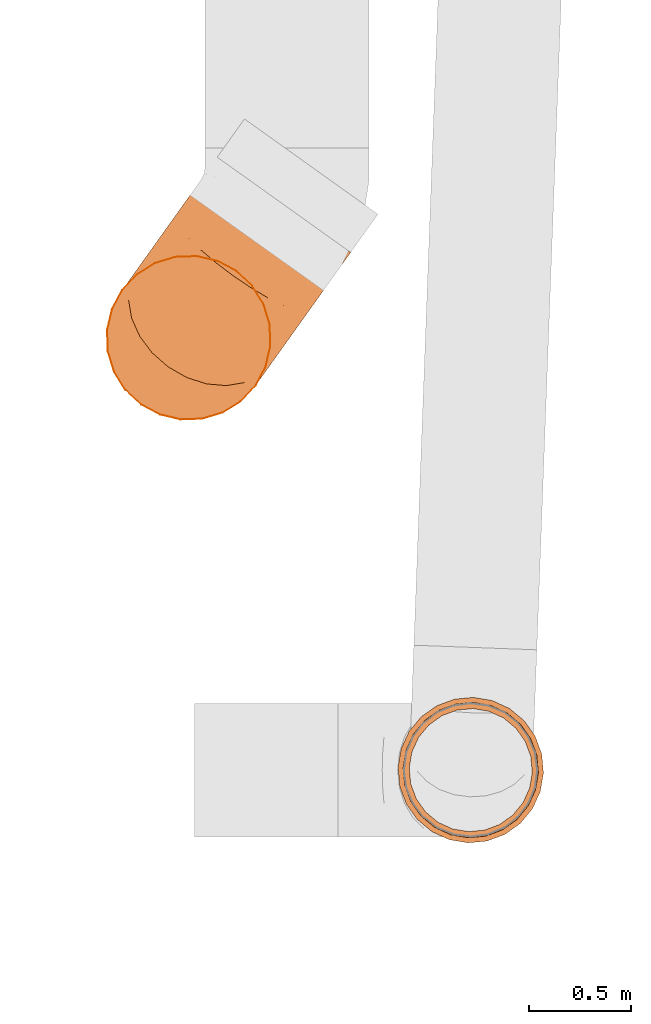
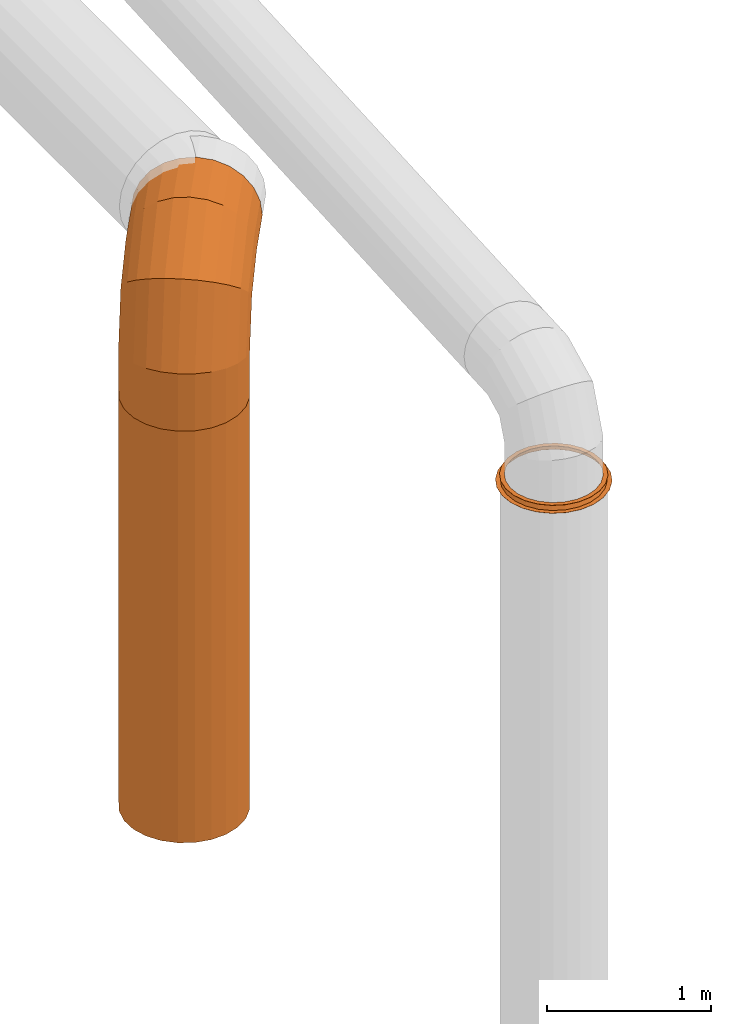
# One storey, part 290 of 301: 3 proxies.
"""IFC2X3 building model written with IfcOpenShell, lengths in millimetres."""

from ifc_helpers import new_model, entity, si_unit, converted_unit, derived_unit, money_unit, direction, frame, origin_with_axes, place, context, subcontext, project, spatial, open_shell, faceted_brep, surface_model, type_object, element, save


model = new_model("IFC2X3")

# Units and contexts
model_context = context("Model", 3, precision=0.01, world=origin_with_axes(), true_north=direction((0.0, 1.0)))
body_context = subcontext(model_context, "Body", "Model", "MODEL_VIEW")
ifc_project = project(units=[si_unit("LENGTHUNIT", "METRE", prefix="MILLI"), si_unit("AREAUNIT", "SQUARE_METRE"), si_unit("VOLUMEUNIT", "CUBIC_METRE"), converted_unit("PLANEANGLEUNIT", "DEGREE", entity("IfcPlaneAngleMeasure", 0.0174532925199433), si_unit("PLANEANGLEUNIT", "RADIAN"), dimensions=[0, 0, 0, 0, 0, 0, 0]), money_unit("EUR"), converted_unit("TIMEUNIT", "Year", entity("IfcTimeMeasure", 31557600.0), si_unit("TIMEUNIT", "SECOND"), dimensions=[0, 0, 1, 0, 0, 0, 0]), si_unit("MASSUNIT", "GRAM", prefix="KILO"), si_unit("THERMODYNAMICTEMPERATUREUNIT", "DEGREE_CELSIUS"), si_unit("LUMINOUSINTENSITYUNIT", "LUMEN"), si_unit("ENERGYUNIT", "JOULE", prefix="MEGA"), derived_unit("THERMALCONDUCTANCEUNIT", [(si_unit("POWERUNIT", "WATT"), 1), (si_unit("LENGTHUNIT", "METRE"), -1), (si_unit("THERMODYNAMICTEMPERATUREUNIT", "KELVIN"), -1)]), derived_unit("SPECIFICHEATCAPACITYUNIT", [(si_unit("ENERGYUNIT", "JOULE"), 1), (si_unit("MASSUNIT", "GRAM", prefix="KILO"), -1), (si_unit("THERMODYNAMICTEMPERATUREUNIT", "KELVIN"), -1)]), derived_unit("MASSDENSITYUNIT", [(si_unit("MASSUNIT", "GRAM", prefix="KILO"), 1), (si_unit("VOLUMEUNIT", "CUBIC_METRE"), -1)])], contexts=[model_context])

# Site, building, storey
site_placement = place(None, frame((0.0, 0.0, 8650.0), z_axis=(0.0, 0.0, 1.0), x_axis=(1.0, 0.0, 0.0)))
site = spatial("IfcSite", under=ifc_project, at=site_placement, Name="43301:001:0844", CompositionType="ELEMENT")
building_placement = place(site_placement, origin_with_axes())
building = spatial("IfcBuilding", under=site, at=building_placement, Name="Kuressaare Ametikooli tuulikute mehaanikute õppekorpus", CompositionType="ELEMENT")
storey_placement = place(building_placement, origin_with_axes())
storey = spatial("IfcBuildingStorey", under=building, at=storey_placement, Name="1.korrus", CompositionType="ELEMENT", Elevation=0.0)

# Proxies
building_element_proxy_type = type_object("IfcBuildingElementProxyType", Name="IfcBuildingElementProxy", PredefinedType="NOTDEFINED")
proxy_1_placement = place(storey_placement, frame((70327.74631989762, 43183.46311643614, 2617.919783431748), z_axis=(1.0, 0.0, 0.0), x_axis=(0.0, 1.0, 0.0)))
element("IfcBuildingElementProxy", 1, at=proxy_1_placement, inside=storey, type_object=building_element_proxy_type, context=body_context, shape_type="SurfaceModel", body=[
    surface_model("IfcShellBasedSurfaceModel", [(326.3291391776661, 0.0, 233.0456884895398), (375.5264059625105, 0.0, 140.6446530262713), (375.5264059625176, 3061.106005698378, 140.6446530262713), (326.3291391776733, 3061.106005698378, 233.0456884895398), (399.1321687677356, 0.0, 38.65891688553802), (399.1321687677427, 3061.106005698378, 38.65891688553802), (254.8930808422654, 0.0, 309.5650454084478), (254.8930808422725, 3061.106005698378, 309.5650454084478), (395.5377338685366, 0.0, -65.96136055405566), (395.5377338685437, 3061.106005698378, -65.96136055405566), (166.0864802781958, 0.0, 364.9880560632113), (166.0864802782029, 3061.106005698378, 364.9880560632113), (364.9880560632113, 0.0, -166.0864802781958), (364.9880560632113, 3061.106005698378, -166.0864802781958), (65.96136055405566, 0.0, 395.5377338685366), (65.96136055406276, 3061.106005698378, 395.5377338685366), (309.5650454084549, 0.0, -254.8930808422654), (309.565045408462, 3061.106005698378, -254.8930808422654), (-38.65891688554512, 0.0, 399.1321687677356), (-38.65891688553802, 3061.106005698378, 399.1321687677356), (233.0456884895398, 0.0, -326.329139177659), (233.0456884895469, 3061.106005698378, -326.329139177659), (-140.6446530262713, 0.0, 375.5264059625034), (-140.6446530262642, 3061.106005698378, 375.5264059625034), (140.6446530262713, 0.0, -375.5264059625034), (140.6446530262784, 3061.106005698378, -375.5264059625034), (-233.0456884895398, 0.0, 326.329139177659), (-233.0456884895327, 3061.106005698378, 326.329139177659), (38.65891688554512, 0.0, -399.1321687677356), (38.65891688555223, 3061.106005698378, -399.1321687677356), (-309.5650454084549, 0.0, 254.8930808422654), (-309.5650454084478, 3061.106005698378, 254.8930808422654), (-65.96136055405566, 0.0, -395.5377338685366), (-65.96136055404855, 3061.106005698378, -395.5377338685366), (-364.9880560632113, 0.0, 166.0864802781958), (-364.9880560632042, 3061.106005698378, 166.0864802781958), (-166.0864802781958, 0.0, -364.9880560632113), (-166.0864802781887, 3061.106005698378, -364.9880560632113), (-395.5377338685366, 0.0, 65.96136055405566), (-395.5377338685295, 3061.106005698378, 65.96136055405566), (-254.8930808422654, 0.0, -309.5650454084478), (-254.8930808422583, 3061.106005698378, -309.5650454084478), (-399.1321687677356, 0.0, -38.65891688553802), (-399.1321687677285, 3061.106005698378, -38.65891688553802), (-326.3291391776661, 0.0, -233.0456884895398), (-326.329139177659, 3061.106005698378, -233.0456884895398), (-375.5264059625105, 0.0, -140.6446530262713), (-375.5264059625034, 3061.106005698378, -140.6446530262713)], [open_shell([[[0, 1, 2, 3]], [[1, 4, 5, 2]], [[6, 0, 3, 7]], [[4, 8, 9, 5]], [[10, 6, 7, 11]], [[8, 12, 13, 9]], [[14, 10, 11, 15]], [[12, 16, 17, 13]], [[18, 14, 15, 19]], [[16, 20, 21, 17]], [[22, 18, 19, 23]], [[20, 24, 25, 21]], [[26, 22, 23, 27]], [[24, 28, 29, 25]], [[30, 26, 27, 31]], [[28, 32, 33, 29]], [[34, 30, 31, 35]], [[32, 36, 37, 33]], [[38, 34, 35, 39]], [[36, 40, 41, 37]], [[42, 38, 39, 43]], [[40, 44, 45, 41]], [[46, 42, 43, 47]], [[44, 46, 47, 45]]])]),
])
proxy_2_placement = place(storey_placement, frame((70327.74631989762, 43183.46311643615, 5679.025789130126), z_axis=(1.0, 0.0, 0.0), x_axis=(0.0, 1.0, 0.0)))
element("IfcBuildingElementProxy", 2, at=proxy_2_placement, inside=storey, type_object=building_element_proxy_type, context=body_context, shape_type="SurfaceModel", body=[
    surface_model("IfcShellBasedSurfaceModel", [(326.3291391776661, 0.0, 233.0456884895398), (375.5264059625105, 0.0, 140.6446530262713), (375.5264059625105, 269.7904303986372, 140.6446530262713), (326.3291391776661, 267.0725428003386, 233.0456884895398), (399.1321687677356, 0.0, 38.65891688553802), (399.1321687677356, 277.7588736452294, 38.65891688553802), (409.5807026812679, 370.8171190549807, 164.9642925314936), (357.7744572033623, 360.3593424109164, 255.5021439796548), (254.8930808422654, 0.0, 309.565045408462), (254.8930808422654, 269.7904303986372, 309.565045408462), (395.5377338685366, 0.0, -65.96136055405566), (395.5377338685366, 290.4348363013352, -65.96136055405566), (440.8356039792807, 401.4777687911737, 68.44113552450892), (491.7950476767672, 412.663743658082, 223.6770960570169), (433.6901704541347, 398.9999999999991, 309.7168233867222), (288.9473775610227, 370.8171190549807, 333.8846849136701), (166.0864802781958, 0.0, 364.9880560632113), (166.0864802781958, 277.7588736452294, 364.9880560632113), (364.9880560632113, 0.0, -166.0864802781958), (364.9880560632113, 306.9544724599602, -166.0864802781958), (449.409191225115, 450.2518190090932, -27.4894334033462), (541.5166028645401, 452.7238130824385, 140.3417716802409), (711.3473641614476, 412.663743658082, 380.4688581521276), (651.0307016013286, 398.9999999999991, 464.9290543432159), (371.161722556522, 412.6637436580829, 392.5974884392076), (207.7899154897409, 401.4777687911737, 394.770274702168), (65.96136055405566, 0.0, 395.5377338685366), (65.96136055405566, 290.434836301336, 395.5377338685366), (309.5650454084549, 0.0, -254.8930808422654), (309.5650454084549, 326.1919962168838, -254.8930808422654), (434.7171886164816, 513.8153987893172, -116.2899045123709), (579.4663942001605, 516.4501807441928, 65.39001489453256), (767.5535458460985, 452.7238130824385, 301.7644847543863), (590.7140390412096, 412.663743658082, 549.3892505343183), (308.4709143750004, 452.7238130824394, 466.6709108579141), (119.832817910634, 450.251819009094, 434.0096610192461), (-38.65891688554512, 0.0, 399.1321687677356), (-38.65891688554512, 306.9544724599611, 399.1321687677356), (233.0456884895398, 0.0, -326.329139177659), (233.0456884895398, 346.8364021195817, -326.329139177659), (397.7608318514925, 587.8367552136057, -191.9086724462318), (603.0582061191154, 599.4999999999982, 3.929664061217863), (815.8188882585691, 516.4501807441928, 234.1795071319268), (534.5078573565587, 452.7238130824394, 628.0936239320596), (249.8900208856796, 516.4501807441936, 526.8891093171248), (31.07021566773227, 513.8153987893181, 448.9287445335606), (-140.6446530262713, 0.0, 375.5264059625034), (-140.6446530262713, 326.1919962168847, 375.5264059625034), (140.6446530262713, 0.0, -375.5264059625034), (140.6446530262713, 367.4808080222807, -375.5264059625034), (341.0586355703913, 667.2714551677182, -249.1924431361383), (610.6842956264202, 696.2135629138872, -39.85085947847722), (852.8541880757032, 599.4999999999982, 182.3197298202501), (486.2425149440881, 516.4501807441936, 695.6786015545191), (199.411233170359, 599.4999999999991, 569.1483131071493), (-52.44886658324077, 587.8367552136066, 438.5108143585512), (-233.0456884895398, 0.0, 326.329139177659), (-233.0456884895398, 346.8364021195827, 326.329139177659), (38.65891688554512, 0.0, -399.1321687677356), (38.65891688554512, 386.7183317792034, -399.1321687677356), (268.4747607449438, 746.7061551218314, -284.2374222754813), (601.8249573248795, 799.9999999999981, -62.96798539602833), (876.1355508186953, 696.2135629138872, 149.7193109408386), (449.2072151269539, 599.4999999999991, 747.5383788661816), (160.4745971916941, 696.2135629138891, 590.5686273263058), (-125.0327414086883, 667.2714551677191, 403.465835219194), (-309.5650454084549, 0.0, 254.8930808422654), (-309.5650454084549, 367.4808080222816, 254.8930808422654), (-65.96136055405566, 0.0, -395.5377338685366), (-65.96136055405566, 403.2379679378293, -395.5377338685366), (184.9556784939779, 820.7275115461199, -294.6553524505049), (577.0839404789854, 903.7864370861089, -63.84631976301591), (884.0763900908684, 799.9999999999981, 138.5999151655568), (425.925852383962, 696.2135629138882, 780.1387977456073), (135.7335803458, 799.999999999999, 589.690292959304), (-181.7349376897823, 746.7061551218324, 346.1820645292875), (-364.9880560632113, 0.0, 166.0864802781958), (-364.9880560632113, 386.7183317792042, 166.0864802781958), (-166.0864802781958, 0.0, -364.9880560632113), (-166.0864802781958, 415.913930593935, -364.9880560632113), (96.19307625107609, 884.291091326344, -279.7362689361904), (538.1473045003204, 1000.499999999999, -42.42600554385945), (876.1355508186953, 903.7864370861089, 149.7193109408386), (417.9850131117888, 799.999999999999, 791.2581935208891), (126.8742420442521, 903.7864370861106, 566.5731670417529), (-218.6912944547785, 820.7275115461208, 270.5632965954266), (-395.5377338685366, 0.0, 65.96136055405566), (-395.5377338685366, 403.2379679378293, 65.96136055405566), (-254.8930808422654, 0.0, -309.5650454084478), (-254.8930808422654, 423.8823738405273, -309.5650454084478), (8.235978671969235, 933.0651415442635, -240.4968826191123), (487.6685167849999, 1083.549819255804, -0.1668017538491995), (852.8541880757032, 1000.499999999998, 182.3197298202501), (425.925852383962, 903.7864370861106, 780.1387977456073), (134.500331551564, 1000.5, 522.792643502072), (-233.3832970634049, 884.2910913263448, 181.7628254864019), (-399.1321687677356, 0.0, -38.65891688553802), (-399.1321687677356, 415.9139305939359, -38.65891688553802), (-326.3291391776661, 0.0, -233.0456884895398), (-326.3291391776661, 426.6002614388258, -233.0456884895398), (-72.92148339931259, 963.7257912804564, -179.6112928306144), (429.0876232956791, 1147.276186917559, 60.05139670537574), (815.8188882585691, 1083.549819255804, 234.1795071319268), (449.2072151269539, 1000.5, 747.5383788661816), (158.0921434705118, 1083.549819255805, 461.3322926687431), (-224.8097098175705, 933.0651415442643, 85.83225655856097), (-375.5264059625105, 0.0, -140.6446530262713), (-375.5264059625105, 423.8823738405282, -140.6446530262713), (-141.7485630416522, 974.1835679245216, -101.2287518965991), (366.3968151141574, 1187.336256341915, 134.1248191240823), (767.5535458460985, 1147.276186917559, 301.7644847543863), (486.2425149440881, 1083.549819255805, 695.6786015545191), (196.0419348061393, 1147.276186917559, 386.3805358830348), (-193.5548085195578, 963.7257912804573, -10.6909004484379), (303.8683672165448, 1200.999999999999, 217.0054841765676), (711.3473641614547, 1187.336256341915, 380.4688581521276), (534.5078573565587, 1147.276186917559, 628.0936239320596), (245.7634899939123, 1187.336256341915, 303.0452115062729), (651.0307016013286, 1200.999999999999, 464.9290543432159), (590.7140390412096, 1187.336256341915, 549.3892505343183)], [open_shell([[[0, 1, 2, 3]], [[1, 4, 5, 2]], [[3, 2, 6, 7]], [[8, 0, 3, 9]], [[4, 10, 11, 5]], [[2, 5, 12, 6]], [[7, 6, 13, 14]], [[9, 3, 7, 15]], [[16, 8, 9, 17]], [[10, 18, 19, 11]], [[5, 11, 20, 12]], [[6, 12, 21, 13]], [[14, 13, 22, 23]], [[15, 7, 14, 24]], [[17, 9, 15, 25]], [[26, 16, 17, 27]], [[18, 28, 29, 19]], [[11, 19, 30, 20]], [[12, 20, 31, 21]], [[13, 21, 32, 22]], [[24, 14, 23, 33]], [[25, 15, 24, 34]], [[27, 17, 25, 35]], [[36, 26, 27, 37]], [[28, 38, 39, 29]], [[19, 29, 40, 30]], [[20, 30, 41, 31]], [[21, 31, 42, 32]], [[34, 24, 33, 43]], [[35, 25, 34, 44]], [[37, 27, 35, 45]], [[46, 36, 37, 47]], [[38, 48, 49, 39]], [[29, 39, 50, 40]], [[30, 40, 51, 41]], [[31, 41, 52, 42]], [[44, 34, 43, 53]], [[45, 35, 44, 54]], [[47, 37, 45, 55]], [[56, 46, 47, 57]], [[48, 58, 59, 49]], [[39, 49, 60, 50]], [[40, 50, 61, 51]], [[41, 51, 62, 52]], [[54, 44, 53, 63]], [[55, 45, 54, 64]], [[57, 47, 55, 65]], [[66, 56, 57, 67]], [[58, 68, 69, 59]], [[49, 59, 70, 60]], [[50, 60, 71, 61]], [[51, 61, 72, 62]], [[64, 54, 63, 73]], [[65, 55, 64, 74]], [[67, 57, 65, 75]], [[76, 66, 67, 77]], [[68, 78, 79, 69]], [[59, 69, 80, 70]], [[60, 70, 81, 71]], [[61, 71, 82, 72]], [[74, 64, 73, 83]], [[75, 65, 74, 84]], [[77, 67, 75, 85]], [[86, 76, 77, 87]], [[78, 88, 89, 79]], [[69, 79, 90, 80]], [[70, 80, 91, 81]], [[71, 81, 92, 82]], [[84, 74, 83, 93]], [[85, 75, 84, 94]], [[87, 77, 85, 95]], [[96, 86, 87, 97]], [[88, 98, 99, 89]], [[79, 89, 100, 90]], [[80, 90, 101, 91]], [[81, 91, 102, 92]], [[94, 84, 93, 103]], [[95, 85, 94, 104]], [[97, 87, 95, 105]], [[106, 96, 97, 107]], [[98, 106, 107, 99]], [[89, 99, 108, 100]], [[90, 100, 109, 101]], [[91, 101, 110, 102]], [[104, 94, 103, 111]], [[105, 95, 104, 112]], [[107, 97, 105, 113]], [[99, 107, 113, 108]], [[100, 108, 114, 109]], [[101, 109, 115, 110]], [[112, 104, 111, 116]], [[113, 105, 112, 117]], [[108, 113, 117, 114]], [[109, 114, 118, 115]], [[117, 112, 116, 119]], [[114, 117, 119, 118]]])]),
])
proxy_3_placement = place(storey_placement, frame((71706.47101226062, 41069.55269963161, 5835.724518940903), z_axis=(1.0, 0.0, 0.0), x_axis=(0.0, 1.0, 0.0)))
element("IfcBuildingElementProxy", 3, at=proxy_3_placement, inside=storey, type_object=building_element_proxy_type, context=body_context, shape_type="SurfaceModel", body=[
    surface_model("IfcShellBasedSurfaceModel", [(-12.20557928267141, 1.000000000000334, 325.7714288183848), (72.52616587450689, 1.000000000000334, 317.8300729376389), (66.96434333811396, 42.30127018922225, 293.4566010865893), (-11.26956860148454, 42.30127018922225, 300.7889572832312), (152.3153726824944, 1.000000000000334, 288.2291228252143), (140.6347459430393, 42.30127018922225, 266.1256624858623), (-96.10553438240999, 1.000000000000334, 311.5120001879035), (-88.73547806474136, 42.30127018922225, 287.6230431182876), (221.7245385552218, 1.000000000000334, 238.9858343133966), (204.721123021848, 42.30127018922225, 220.6586997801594), (-173.4560561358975, 1.000000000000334, 276.0235435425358), (-160.154211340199, 42.30127018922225, 254.8560938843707), (276.0235435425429, 1.000000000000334, 173.4560561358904), (254.8560938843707, 42.30127018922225, 160.154211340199), (-238.9858343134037, 1.000000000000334, 221.7245385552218), (-220.6586997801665, 42.30127018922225, 204.7211230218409), (311.5120001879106, 1.000000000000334, 96.10553438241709), (287.6230431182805, 42.30127018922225, 88.73547806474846), (-288.2291228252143, 1.000000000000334, 152.3153726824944), (-266.1256624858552, 42.30127018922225, 140.6347459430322), (325.7714288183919, 1.000000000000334, 12.20557928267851), (300.7889572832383, 42.30127018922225, 11.26956860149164), (-317.8300729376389, 1.000000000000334, 72.52616587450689), (-293.4566010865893, 42.30127018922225, 66.96434333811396), (317.8300729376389, 1.000000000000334, -72.52616587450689), (293.4566010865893, 42.30127018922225, -66.96434333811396), (-325.7714288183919, 1.000000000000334, -12.20557928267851), (-300.7889572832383, 42.30127018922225, -11.26956860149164), (288.2291228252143, 1.000000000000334, -152.3153726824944), (266.1256624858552, 42.30127018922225, -140.6347459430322), (-311.5120001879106, 1.000000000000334, -96.10553438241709), (-287.6230431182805, 42.30127018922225, -88.73547806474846), (238.9858343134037, 1.000000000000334, -221.7245385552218), (220.6586997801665, 42.30127018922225, -204.7211230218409), (-276.0235435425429, 1.000000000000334, -173.4560561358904), (-254.8560938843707, 42.30127018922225, -160.154211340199), (173.4560561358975, 1.000000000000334, -276.0235435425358), (160.154211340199, 42.30127018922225, -254.8560938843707), (-221.7245385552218, 1.000000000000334, -238.9858343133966), (-204.721123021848, 42.30127018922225, -220.6586997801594), (96.10553438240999, 1.000000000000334, -311.5120001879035), (88.73547806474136, 42.30127018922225, -287.6230431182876), (-152.3153726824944, 1.000000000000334, -288.2291228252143), (-140.6347459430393, 42.30127018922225, -266.1256624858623), (12.20557928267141, 1.000000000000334, -325.7714288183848), (11.26956860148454, 42.30127018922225, -300.7889572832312), (-72.52616587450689, 1.000000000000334, -317.8300729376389), (-66.96434333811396, 42.30127018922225, -293.4566010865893)], [open_shell([[[0, 1, 2, 3]], [[1, 4, 5, 2]], [[6, 0, 3, 7]], [[4, 8, 9, 5]], [[10, 6, 7, 11]], [[8, 12, 13, 9]], [[14, 10, 11, 15]], [[12, 16, 17, 13]], [[18, 14, 15, 19]], [[16, 20, 21, 17]], [[22, 18, 19, 23]], [[20, 24, 25, 21]], [[26, 22, 23, 27]], [[24, 28, 29, 25]], [[30, 26, 27, 31]], [[28, 32, 33, 29]], [[34, 30, 31, 35]], [[32, 36, 37, 33]], [[38, 34, 35, 39]], [[36, 40, 41, 37]], [[42, 38, 39, 43]], [[40, 44, 45, 41]], [[46, 42, 43, 47]], [[44, 46, 47, 45]]])]),
    faceted_brep([(-13.32879210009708, 0.0, 355.7503946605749), (79.20035291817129, 0.0, 347.0782391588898), (79.20035291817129, 1.000000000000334, 347.0782391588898), (-13.32879210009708, 1.000000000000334, 355.7503946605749), (-104.949601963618, 0.0, 340.1787486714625), (-189.4182698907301, 0.0, 301.4244831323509), (-260.9783957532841, 0.0, 242.1286371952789), (-314.753275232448, 0.0, 166.3321247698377), (-347.0782391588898, 0.0, 79.20035291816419), (-355.7503946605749, 0.0, -13.32879210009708), (-340.1787486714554, 0.0, -104.9496019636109), (-301.4244831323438, 0.0, -189.4182698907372), (-242.1286371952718, 0.0, -260.9783957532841), (-166.3321247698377, 0.0, -314.753275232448), (-79.20035291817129, 0.0, -347.0782391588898), (13.32879210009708, 0.0, -355.7503946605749), (104.949601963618, 0.0, -340.1787486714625), (189.4182698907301, 0.0, -301.4244831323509), (260.9783957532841, 0.0, -242.1286371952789), (314.7532752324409, 0.0, -166.3321247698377), (347.0782391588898, 0.0, -79.20035291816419), (355.7503946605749, 0.0, 13.32879210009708), (340.1787486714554, 0.0, 104.9496019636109), (301.4244831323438, 0.0, 189.4182698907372), (242.1286371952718, 0.0, 260.9783957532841), (166.3321247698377, 0.0, 314.753275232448), (-12.20557928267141, 0.0, 325.7714288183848), (72.52616587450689, 0.0, 317.8300729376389), (152.3153726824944, 0.0, 288.2291228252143), (221.7245385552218, 0.0, 238.9858343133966), (276.0235435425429, 0.0, 173.4560561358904), (311.5120001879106, 0.0, 96.10553438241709), (325.7714288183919, 0.0, 12.20557928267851), (317.8300729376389, 0.0, -72.52616587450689), (288.2291228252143, 0.0, -152.3153726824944), (238.9858343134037, 0.0, -221.7245385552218), (173.4560561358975, 0.0, -276.0235435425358), (96.10553438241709, 0.0, -311.5120001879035), (12.20557928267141, 0.0, -325.7714288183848), (-72.52616587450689, 0.0, -317.8300729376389), (-152.3153726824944, 0.0, -288.2291228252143), (-221.7245385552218, 0.0, -238.9858343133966), (-276.0235435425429, 0.0, -173.4560561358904), (-311.5120001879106, 0.0, -96.10553438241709), (-325.7714288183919, 0.0, -12.20557928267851), (-317.8300729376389, 0.0, 72.52616587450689), (-288.2291228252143, 0.0, 152.3153726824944), (-238.9858343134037, 0.0, 221.7245385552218), (-173.4560561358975, 0.0, 276.0235435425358), (-96.10553438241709, 0.0, 311.5120001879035), (166.3321247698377, 1.000000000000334, 314.753275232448), (242.1286371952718, 1.000000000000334, 260.9783957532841), (301.4244831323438, 1.000000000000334, 189.4182698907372), (340.1787486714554, 1.000000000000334, 104.9496019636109), (355.7503946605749, 1.000000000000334, 13.32879210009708), (347.0782391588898, 1.000000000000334, -79.20035291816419), (314.7532752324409, 1.000000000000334, -166.3321247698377), (260.9783957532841, 1.000000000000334, -242.1286371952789), (189.4182698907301, 1.000000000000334, -301.4244831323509), (104.949601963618, 1.000000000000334, -340.1787486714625), (13.32879210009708, 1.000000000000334, -355.7503946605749), (-79.20035291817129, 1.000000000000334, -347.0782391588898), (-166.3321247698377, 1.000000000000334, -314.753275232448), (-242.1286371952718, 1.000000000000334, -260.9783957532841), (-301.4244831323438, 1.000000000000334, -189.4182698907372), (-340.1787486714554, 1.000000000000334, -104.9496019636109), (-355.7503946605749, 1.000000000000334, -13.32879210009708), (-347.0782391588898, 1.000000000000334, 79.20035291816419), (-314.753275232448, 1.000000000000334, 166.3321247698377), (-260.9783957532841, 1.000000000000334, 242.1286371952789), (-189.4182698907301, 1.000000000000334, 301.4244831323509), (-104.949601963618, 1.000000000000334, 340.1787486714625), (-12.20557928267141, 1.000000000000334, 325.7714288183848), (-96.10553438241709, 1.000000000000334, 311.5120001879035), (-173.4560561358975, 1.000000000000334, 276.0235435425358), (-238.9858343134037, 1.000000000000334, 221.7245385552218), (-288.2291228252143, 1.000000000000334, 152.3153726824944), (-317.8300729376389, 1.000000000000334, 72.52616587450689), (-325.7714288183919, 1.000000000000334, -12.20557928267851), (-311.5120001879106, 1.000000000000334, -96.10553438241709), (-276.0235435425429, 1.000000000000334, -173.4560561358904), (-221.7245385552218, 1.000000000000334, -238.9858343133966), (-152.3153726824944, 1.000000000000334, -288.2291228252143), (-72.52616587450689, 1.000000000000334, -317.8300729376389), (12.20557928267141, 1.000000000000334, -325.7714288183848), (96.10553438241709, 1.000000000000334, -311.5120001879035), (173.4560561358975, 1.000000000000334, -276.0235435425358), (238.9858343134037, 1.000000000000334, -221.7245385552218), (288.2291228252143, 1.000000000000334, -152.3153726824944), (317.8300729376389, 1.000000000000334, -72.52616587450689), (325.7714288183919, 1.000000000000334, 12.20557928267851), (311.5120001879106, 1.000000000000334, 96.10553438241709), (276.0235435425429, 1.000000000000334, 173.4560561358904), (221.7245385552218, 1.000000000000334, 238.9858343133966), (152.3153726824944, 1.000000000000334, 288.2291228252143), (72.52616587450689, 1.000000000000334, 317.8300729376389)], [[[0, 1, 2, 3]], [[0, 4, 5, 6, 7, 8, 9, 10, 11, 12, 13, 14, 15, 16, 17, 18, 19, 20, 21, 22, 23, 24, 25, 1], [26, 27, 28, 29, 30, 31, 32, 33, 34, 35, 36, 37, 38, 39, 40, 41, 42, 43, 44, 45, 46, 47, 48, 49]], [[1, 25, 50, 2]], [[3, 2, 50, 51, 52, 53, 54, 55, 56, 57, 58, 59, 60, 61, 62, 63, 64, 65, 66, 67, 68, 69, 70, 71], [72, 73, 74, 75, 76, 77, 78, 79, 80, 81, 82, 83, 84, 85, 86, 87, 88, 89, 90, 91, 92, 93, 94, 95]], [[4, 0, 3, 71]], [[5, 4, 71, 70]], [[6, 5, 70, 69]], [[7, 6, 69, 68]], [[8, 7, 68, 67]], [[9, 8, 67, 66]], [[10, 9, 66, 65]], [[11, 10, 65, 64]], [[12, 11, 64, 63]], [[13, 12, 63, 62]], [[14, 13, 62, 61]], [[15, 14, 61, 60]], [[16, 15, 60, 59]], [[17, 16, 59, 58]], [[18, 17, 58, 57]], [[19, 18, 57, 56]], [[20, 19, 56, 55]], [[21, 20, 55, 54]], [[22, 21, 54, 53]], [[23, 22, 53, 52]], [[24, 23, 52, 51]], [[25, 24, 51, 50]], [[27, 26, 72, 95]], [[28, 27, 95, 94]], [[29, 28, 94, 93]], [[30, 29, 93, 92]], [[31, 30, 92, 91]], [[32, 31, 91, 90]], [[33, 32, 90, 89]], [[34, 33, 89, 88]], [[35, 34, 88, 87]], [[36, 35, 87, 86]], [[37, 36, 86, 85]], [[38, 37, 85, 84]], [[39, 38, 84, 83]], [[40, 39, 83, 82]], [[41, 40, 82, 81]], [[42, 41, 81, 80]], [[43, 42, 80, 79]], [[44, 43, 79, 78]], [[45, 44, 78, 77]], [[46, 45, 77, 76]], [[47, 46, 76, 75]], [[48, 47, 75, 74]], [[49, 48, 74, 73]], [[26, 49, 73, 72]]]),
    faceted_brep([(-12.3927814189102, 42.30127018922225, 330.7679231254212), (73.63853038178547, 42.30127018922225, 322.7047673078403), (73.63853038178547, 43.3012701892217, 322.7047673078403), (-12.3927814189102, 43.3012701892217, 330.7679231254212), (-97.5795456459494, 42.30127018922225, 316.2897916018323), (-176.1164250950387, 42.30127018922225, 280.2570334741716), (-242.6512612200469, 42.30127018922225, 225.125221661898), (-292.6498148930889, 42.30127018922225, 154.6514980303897), (-322.7047673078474, 42.30127018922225, 73.63853038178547), (-330.7679231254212, 42.30127018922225, -12.3927814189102), (-316.2897916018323, 42.30127018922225, -97.57954564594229), (-280.2570334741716, 42.30127018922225, -176.1164250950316), (-225.125221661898, 42.30127018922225, -242.6512612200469), (-154.6514980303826, 42.30127018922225, -292.6498148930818), (-73.63853038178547, 42.30127018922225, -322.7047673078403), (12.3927814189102, 42.30127018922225, -330.7679231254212), (97.5795456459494, 42.30127018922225, -316.2897916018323), (176.1164250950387, 42.30127018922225, -280.2570334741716), (242.6512612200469, 42.30127018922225, -225.125221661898), (292.6498148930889, 42.30127018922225, -154.6514980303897), (322.7047673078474, 42.30127018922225, -73.63853038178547), (330.7679231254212, 42.30127018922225, 12.3927814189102), (316.2897916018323, 42.30127018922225, 97.57954564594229), (280.2570334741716, 42.30127018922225, 176.1164250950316), (225.125221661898, 42.30127018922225, 242.6512612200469), (154.6514980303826, 42.30127018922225, 292.6498148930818), (-11.26956860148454, 42.30127018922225, 300.7889572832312), (66.96434333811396, 42.30127018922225, 293.4566010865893), (140.6347459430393, 42.30127018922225, 266.1256624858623), (204.721123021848, 42.30127018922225, 220.6586997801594), (254.8560938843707, 42.30127018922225, 160.154211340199), (287.6230431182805, 42.30127018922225, 88.73547806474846), (300.7889572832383, 42.30127018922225, 11.26956860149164), (293.4566010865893, 42.30127018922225, -66.96434333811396), (266.1256624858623, 42.30127018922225, -140.6347459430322), (220.6586997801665, 42.30127018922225, -204.7211230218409), (160.154211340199, 42.30127018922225, -254.8560938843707), (88.73547806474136, 42.30127018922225, -287.6230431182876), (11.26956860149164, 42.30127018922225, -300.7889572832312), (-66.96434333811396, 42.30127018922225, -293.4566010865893), (-140.6347459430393, 42.30127018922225, -266.1256624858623), (-204.721123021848, 42.30127018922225, -220.6586997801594), (-254.8560938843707, 42.30127018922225, -160.154211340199), (-287.6230431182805, 42.30127018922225, -88.73547806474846), (-300.7889572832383, 42.30127018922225, -11.26956860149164), (-293.4566010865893, 42.30127018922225, 66.96434333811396), (-266.1256624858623, 42.30127018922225, 140.6347459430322), (-220.6586997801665, 42.30127018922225, 204.7211230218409), (-160.154211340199, 42.30127018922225, 254.8560938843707), (-88.73547806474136, 42.30127018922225, 287.6230431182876), (154.6514980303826, 43.3012701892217, 292.6498148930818), (225.125221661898, 43.3012701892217, 242.6512612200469), (280.2570334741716, 43.3012701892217, 176.1164250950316), (316.2897916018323, 43.3012701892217, 97.57954564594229), (330.7679231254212, 43.3012701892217, 12.3927814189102), (322.7047673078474, 43.3012701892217, -73.63853038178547), (292.6498148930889, 43.3012701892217, -154.6514980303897), (242.6512612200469, 43.3012701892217, -225.125221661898), (176.1164250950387, 43.3012701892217, -280.2570334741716), (97.5795456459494, 43.3012701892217, -316.2897916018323), (12.3927814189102, 43.3012701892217, -330.7679231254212), (-73.63853038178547, 43.3012701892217, -322.7047673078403), (-154.6514980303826, 43.3012701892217, -292.6498148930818), (-225.125221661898, 43.3012701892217, -242.6512612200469), (-280.2570334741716, 43.3012701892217, -176.1164250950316), (-316.2897916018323, 43.3012701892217, -97.57954564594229), (-330.7679231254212, 43.3012701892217, -12.3927814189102), (-322.7047673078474, 43.3012701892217, 73.63853038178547), (-292.6498148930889, 43.3012701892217, 154.6514980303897), (-242.6512612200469, 43.3012701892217, 225.125221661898), (-176.1164250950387, 43.3012701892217, 280.2570334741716), (-97.5795456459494, 43.3012701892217, 316.2897916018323), (-11.26956860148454, 43.3012701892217, 300.7889572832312), (-88.73547806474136, 43.3012701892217, 287.6230431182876), (-160.154211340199, 43.3012701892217, 254.8560938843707), (-220.6586997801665, 43.3012701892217, 204.7211230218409), (-266.1256624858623, 43.3012701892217, 140.6347459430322), (-293.4566010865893, 43.3012701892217, 66.96434333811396), (-300.7889572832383, 43.3012701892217, -11.26956860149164), (-287.6230431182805, 43.3012701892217, -88.73547806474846), (-254.8560938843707, 43.3012701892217, -160.154211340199), (-204.721123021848, 43.3012701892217, -220.6586997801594), (-140.6347459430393, 43.3012701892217, -266.1256624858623), (-66.96434333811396, 43.3012701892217, -293.4566010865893), (11.26956860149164, 43.3012701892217, -300.7889572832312), (88.73547806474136, 43.3012701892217, -287.6230431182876), (160.154211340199, 43.3012701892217, -254.8560938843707), (220.6586997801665, 43.3012701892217, -204.7211230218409), (266.1256624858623, 43.3012701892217, -140.6347459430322), (293.4566010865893, 43.3012701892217, -66.96434333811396), (300.7889572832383, 43.3012701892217, 11.26956860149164), (287.6230431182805, 43.3012701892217, 88.73547806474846), (254.8560938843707, 43.3012701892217, 160.154211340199), (204.721123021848, 43.3012701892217, 220.6586997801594), (140.6347459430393, 43.3012701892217, 266.1256624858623), (66.96434333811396, 43.3012701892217, 293.4566010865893)], [[[0, 1, 2, 3]], [[0, 4, 5, 6, 7, 8, 9, 10, 11, 12, 13, 14, 15, 16, 17, 18, 19, 20, 21, 22, 23, 24, 25, 1], [26, 27, 28, 29, 30, 31, 32, 33, 34, 35, 36, 37, 38, 39, 40, 41, 42, 43, 44, 45, 46, 47, 48, 49]], [[1, 25, 50, 2]], [[3, 2, 50, 51, 52, 53, 54, 55, 56, 57, 58, 59, 60, 61, 62, 63, 64, 65, 66, 67, 68, 69, 70, 71], [72, 73, 74, 75, 76, 77, 78, 79, 80, 81, 82, 83, 84, 85, 86, 87, 88, 89, 90, 91, 92, 93, 94, 95]], [[4, 0, 3, 71]], [[5, 4, 71, 70]], [[6, 5, 70, 69]], [[7, 6, 69, 68]], [[8, 7, 68, 67]], [[9, 8, 67, 66]], [[10, 9, 66, 65]], [[11, 10, 65, 64]], [[12, 11, 64, 63]], [[13, 12, 63, 62]], [[14, 13, 62, 61]], [[15, 14, 61, 60]], [[16, 15, 60, 59]], [[17, 16, 59, 58]], [[18, 17, 58, 57]], [[19, 18, 57, 56]], [[20, 19, 56, 55]], [[21, 20, 55, 54]], [[22, 21, 54, 53]], [[23, 22, 53, 52]], [[24, 23, 52, 51]], [[25, 24, 51, 50]], [[27, 26, 72, 95]], [[28, 27, 95, 94]], [[29, 28, 94, 93]], [[30, 29, 93, 92]], [[31, 30, 92, 91]], [[32, 31, 91, 90]], [[33, 32, 90, 89]], [[34, 33, 89, 88]], [[35, 34, 88, 87]], [[36, 35, 87, 86]], [[37, 36, 86, 85]], [[38, 37, 85, 84]], [[39, 38, 84, 83]], [[40, 39, 83, 82]], [[41, 40, 82, 81]], [[42, 41, 81, 80]], [[43, 42, 80, 79]], [[44, 43, 79, 78]], [[45, 44, 78, 77]], [[46, 45, 77, 76]], [[47, 46, 76, 75]], [[48, 47, 75, 74]], [[49, 48, 74, 73]], [[26, 49, 73, 72]]]),
])

save(model, "model.ifc")
